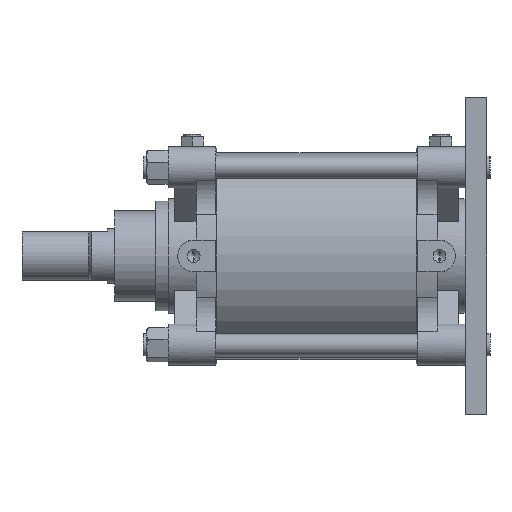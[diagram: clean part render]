
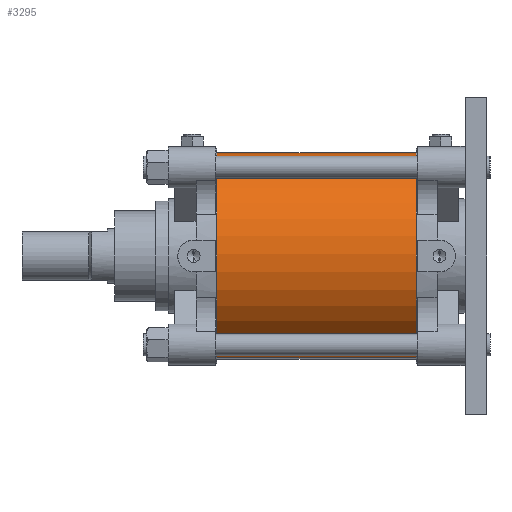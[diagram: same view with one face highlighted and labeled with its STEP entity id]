
A CAD part, front view. The second image highlights one B-rep face of the part: STEP entity #3295.
In plain terms, the highlighted cylindrical face has radius 85 mm (diameter 170 mm), a partial arc.
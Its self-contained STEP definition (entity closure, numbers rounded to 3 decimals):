
#83 = DIRECTION ( 'NONE',  ( -1., 0., 0. ) ) ;
#580 = CYLINDRICAL_SURFACE ( 'NONE', #9541, 85. ) ;
#623 = DIRECTION ( 'NONE',  ( 1., 0., 0. ) ) ;
#794 = CARTESIAN_POINT ( 'NONE',  ( 82., 0., 0. ) ) ;
#926 = VERTEX_POINT ( 'NONE', #1609 ) ;
#1133 = EDGE_CURVE ( 'NONE', #3244, #4741, #9293, .T. ) ;
#1147 = EDGE_CURVE ( 'NONE', #4741, #8034, #9467, .T. ) ;
#1609 = CARTESIAN_POINT ( 'NONE',  ( -82., 0., 85. ) ) ;
#2018 = DIRECTION ( 'NONE',  ( 0., 0., 1. ) ) ;
#2641 = EDGE_CURVE ( 'NONE', #926, #8034, #6450, .T. ) ;
#2697 = VECTOR ( 'NONE', #83, 1000. ) ;
#2845 = DIRECTION ( 'NONE',  ( 1., 0., 0. ) ) ;
#3244 = VERTEX_POINT ( 'NONE', #5213 ) ;
#3295 = ADVANCED_FACE ( 'NONE', ( #7045 ), #580, .T. ) ;
#3786 = VECTOR ( 'NONE', #7941, 1000. ) ;
#3859 = CARTESIAN_POINT ( 'NONE',  ( 82., 0., 0. ) ) ;
#3988 = AXIS2_PLACEMENT_3D ( 'NONE', #794, #623, #9970 ) ;
#4003 = ORIENTED_EDGE ( 'NONE', *, *, #8341, .T. ) ;
#4345 = DIRECTION ( 'NONE',  ( 0., 0., -1. ) ) ;
#4741 = VERTEX_POINT ( 'NONE', #9037 ) ;
#4877 = DIRECTION ( 'NONE',  ( -1., 0., 0. ) ) ;
#4926 = CARTESIAN_POINT ( 'NONE',  ( 82., 0., -85. ) ) ;
#5213 = CARTESIAN_POINT ( 'NONE',  ( 82., 0., 85. ) ) ;
#5531 = CARTESIAN_POINT ( 'NONE',  ( -82., 0., 0. ) ) ;
#6047 = EDGE_LOOP ( 'NONE', ( #8506, #6130, #4003, #7790 ) ) ;
#6130 = ORIENTED_EDGE ( 'NONE', *, *, #1133, .F. ) ;
#6188 = CARTESIAN_POINT ( 'NONE',  ( -82., 0., -85. ) ) ;
#6450 = CIRCLE ( 'NONE', #10381, 85. ) ;
#6921 = CARTESIAN_POINT ( 'NONE',  ( 82., 0., 85. ) ) ;
#7045 = FACE_OUTER_BOUND ( 'NONE', #6047, .T. ) ;
#7790 = ORIENTED_EDGE ( 'NONE', *, *, #2641, .T. ) ;
#7941 = DIRECTION ( 'NONE',  ( -1., 0., 0. ) ) ;
#8034 = VERTEX_POINT ( 'NONE', #6188 ) ;
#8341 = EDGE_CURVE ( 'NONE', #3244, #926, #9292, .T. ) ;
#8506 = ORIENTED_EDGE ( 'NONE', *, *, #1147, .F. ) ;
#9037 = CARTESIAN_POINT ( 'NONE',  ( 82., 0., -85. ) ) ;
#9292 = LINE ( 'NONE', #6921, #2697 ) ;
#9293 = CIRCLE ( 'NONE', #3988, 85. ) ;
#9467 = LINE ( 'NONE', #4926, #3786 ) ;
#9541 = AXIS2_PLACEMENT_3D ( 'NONE', #3859, #4877, #2018 ) ;
#9970 = DIRECTION ( 'NONE',  ( 0., 0., -1. ) ) ;
#10381 = AXIS2_PLACEMENT_3D ( 'NONE', #5531, #2845, #4345 ) ;
